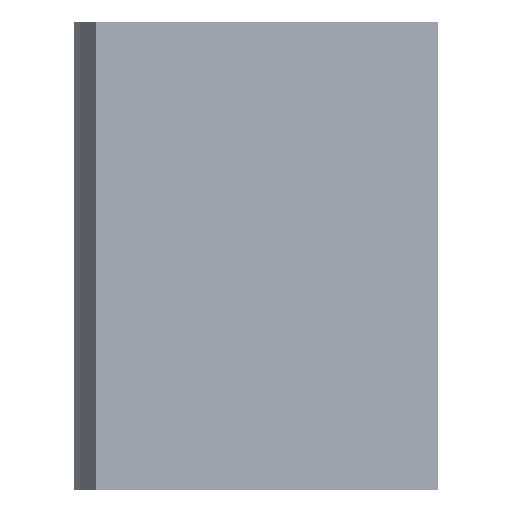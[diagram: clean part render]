
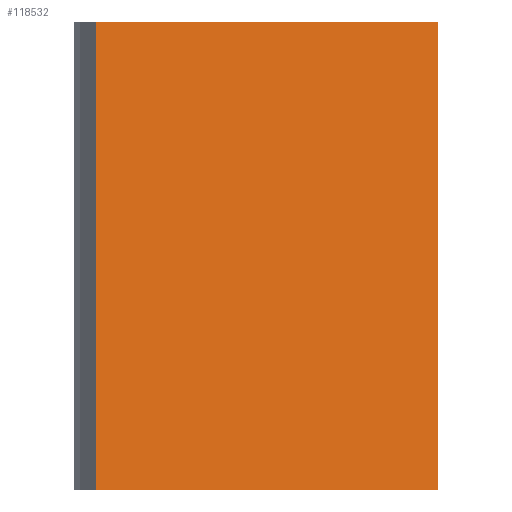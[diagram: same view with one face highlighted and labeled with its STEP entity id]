
A CAD part, left-side view. The second image highlights one B-rep face of the part: STEP entity #118532.
In plain terms, the highlighted planar face has unit normal (-0.966, -0.259, 0) as drawn and (-0.259, 0.966, 0) by its records, which use the part's own axes.
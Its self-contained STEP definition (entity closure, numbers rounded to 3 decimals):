
#5022 = CARTESIAN_POINT ( 'NONE',  ( 853.837, 493.125, 584.2 ) ) ;
#6314 = ORIENTED_EDGE ( 'NONE', *, *, #7994, .F. ) ;
#7994 = EDGE_CURVE ( 'NONE', #51669, #15239, #79831, .T. ) ;
#9377 = LINE ( 'NONE', #83730, #49208 ) ;
#9922 = FACE_OUTER_BOUND ( 'NONE', #37725, .T. ) ;
#13817 = VERTEX_POINT ( 'NONE', #66375 ) ;
#13945 = EDGE_CURVE ( 'NONE', #38768, #13817, #97839, .T. ) ;
#15239 = VERTEX_POINT ( 'NONE', #81641 ) ;
#20201 = DIRECTION ( 'NONE',  ( -0.966, -0.259, 0. ) ) ;
#20535 = VECTOR ( 'NONE', #49642, 1000. ) ;
#30257 = AXIS2_PLACEMENT_3D ( 'NONE', #103998, #65106, #47725 ) ;
#37725 = EDGE_LOOP ( 'NONE', ( #69407, #82063, #6314, #77593 ) ) ;
#38768 = VERTEX_POINT ( 'NONE', #115296 ) ;
#47725 = DIRECTION ( 'NONE',  ( 0.966, 0.259, 0. ) ) ;
#49208 = VECTOR ( 'NONE', #110322, 1000. ) ;
#49642 = DIRECTION ( 'NONE',  ( -0.966, -0.259, 0. ) ) ;
#51669 = VERTEX_POINT ( 'NONE', #77054 ) ;
#60312 = VECTOR ( 'NONE', #20201, 1000. ) ;
#63293 = LINE ( 'NONE', #5022, #115443 ) ;
#65106 = DIRECTION ( 'NONE',  ( 0.259, -0.966, 0. ) ) ;
#66324 = PLANE ( 'NONE',  #30257 ) ;
#66375 = CARTESIAN_POINT ( 'NONE',  ( 0., 264.34, -584.2 ) ) ;
#69407 = ORIENTED_EDGE ( 'NONE', *, *, #13945, .T. ) ;
#75981 = CARTESIAN_POINT ( 'NONE',  ( 0., 264.34, 584.2 ) ) ;
#77054 = CARTESIAN_POINT ( 'NONE',  ( 853.837, 493.125, 584.2 ) ) ;
#77593 = ORIENTED_EDGE ( 'NONE', *, *, #87100, .T. ) ;
#79831 = LINE ( 'NONE', #75981, #60312 ) ;
#81641 = CARTESIAN_POINT ( 'NONE',  ( 0., 264.34, 584.2 ) ) ;
#82063 = ORIENTED_EDGE ( 'NONE', *, *, #113350, .F. ) ;
#83730 = CARTESIAN_POINT ( 'NONE',  ( 0., 264.34, 584.2 ) ) ;
#87100 = EDGE_CURVE ( 'NONE', #51669, #38768, #63293, .T. ) ;
#97839 = LINE ( 'NONE', #116396, #20535 ) ;
#100974 = DIRECTION ( 'NONE',  ( 0., 0., -1. ) ) ;
#103998 = CARTESIAN_POINT ( 'NONE',  ( 0., 264.34, 584.2 ) ) ;
#110322 = DIRECTION ( 'NONE',  ( 0., 0., -1. ) ) ;
#113350 = EDGE_CURVE ( 'NONE', #15239, #13817, #9377, .T. ) ;
#115296 = CARTESIAN_POINT ( 'NONE',  ( 853.837, 493.125, -584.2 ) ) ;
#115443 = VECTOR ( 'NONE', #100974, 1000. ) ;
#116396 = CARTESIAN_POINT ( 'NONE',  ( 0., 264.34, -584.2 ) ) ;
#118532 = ADVANCED_FACE ( 'NONE', ( #9922 ), #66324, .F. ) ;
